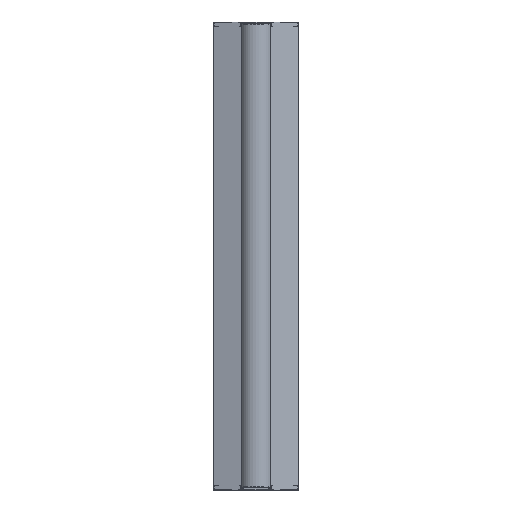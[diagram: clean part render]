
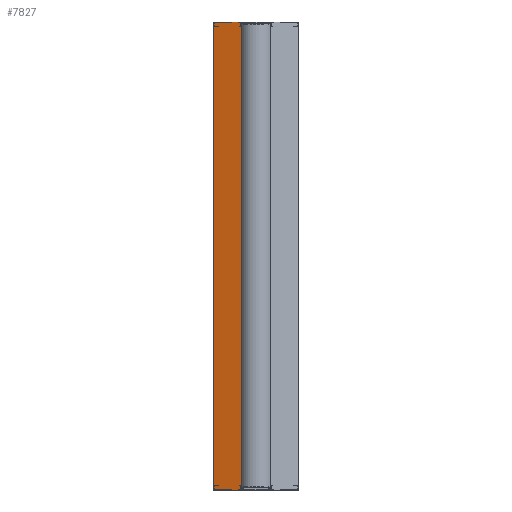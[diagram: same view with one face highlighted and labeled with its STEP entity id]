
A CAD part, front view. The second image highlights one B-rep face of the part: STEP entity #7827.
In plain terms, the highlighted planar face has unit normal (-0.258, -0.966, 0).
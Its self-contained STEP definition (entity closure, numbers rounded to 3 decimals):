
#55 = FACE_OUTER_BOUND ( 'NONE', #13409, .T. ) ;
#1098 = DIRECTION ( 'NONE',  ( 0.966, -0.258, 0. ) ) ;
#2121 = CARTESIAN_POINT ( 'NONE',  ( -114.629, 20.017, 1260. ) ) ;
#2701 = CARTESIAN_POINT ( 'NONE',  ( -114.629, 20.017, 1260. ) ) ;
#2745 = CARTESIAN_POINT ( 'NONE',  ( -114.629, 20.017, 0. ) ) ;
#2823 = ORIENTED_EDGE ( 'NONE', *, *, #21183, .F. ) ;
#3500 = AXIS2_PLACEMENT_3D ( 'NONE', #2701, #26612, #23891 ) ;
#3529 = ORIENTED_EDGE ( 'NONE', *, *, #13198, .T. ) ;
#3829 = CARTESIAN_POINT ( 'NONE',  ( -114.629, 20.017, 0. ) ) ;
#4857 = LINE ( 'NONE', #2121, #9896 ) ;
#5442 = PLANE ( 'NONE',  #3500 ) ;
#5927 = DIRECTION ( 'NONE',  ( 0., 0., -1. ) ) ;
#6550 = LINE ( 'NONE', #3829, #16776 ) ;
#6786 = VERTEX_POINT ( 'NONE', #2745 ) ;
#7827 = ADVANCED_FACE ( 'NONE', ( #55 ), #5442, .F. ) ;
#8365 = CARTESIAN_POINT ( 'NONE',  ( -39.75, 0., 1260. ) ) ;
#8630 = CARTESIAN_POINT ( 'NONE',  ( -114.629, 20.017, 1260. ) ) ;
#8763 = VECTOR ( 'NONE', #12510, 1000. ) ;
#9310 = CARTESIAN_POINT ( 'NONE',  ( -114.629, 20.017, 1260. ) ) ;
#9545 = ORIENTED_EDGE ( 'NONE', *, *, #15864, .T. ) ;
#9896 = VECTOR ( 'NONE', #26045, 1000. ) ;
#12510 = DIRECTION ( 'NONE',  ( 0., 0., -1. ) ) ;
#13198 = EDGE_CURVE ( 'NONE', #6786, #19812, #6550, .T. ) ;
#13409 = EDGE_LOOP ( 'NONE', ( #3529, #15433, #2823, #9545 ) ) ;
#15241 = CARTESIAN_POINT ( 'NONE',  ( -39.75, 0., 1260. ) ) ;
#15433 = ORIENTED_EDGE ( 'NONE', *, *, #23465, .F. ) ;
#15864 = EDGE_CURVE ( 'NONE', #19154, #6786, #22295, .T. ) ;
#15963 = CARTESIAN_POINT ( 'NONE',  ( -39.75, 0., 0. ) ) ;
#16776 = VECTOR ( 'NONE', #1098, 1000. ) ;
#17681 = VERTEX_POINT ( 'NONE', #8365 ) ;
#17977 = LINE ( 'NONE', #15241, #8763 ) ;
#19154 = VERTEX_POINT ( 'NONE', #9310 ) ;
#19812 = VERTEX_POINT ( 'NONE', #15963 ) ;
#21183 = EDGE_CURVE ( 'NONE', #19154, #17681, #4857, .T. ) ;
#22295 = LINE ( 'NONE', #8630, #25938 ) ;
#23465 = EDGE_CURVE ( 'NONE', #17681, #19812, #17977, .T. ) ;
#23891 = DIRECTION ( 'NONE',  ( -0.966, 0.258, 0. ) ) ;
#25938 = VECTOR ( 'NONE', #5927, 1000. ) ;
#26045 = DIRECTION ( 'NONE',  ( 0.966, -0.258, 0. ) ) ;
#26612 = DIRECTION ( 'NONE',  ( 0.258, 0.966, 0. ) ) ;
